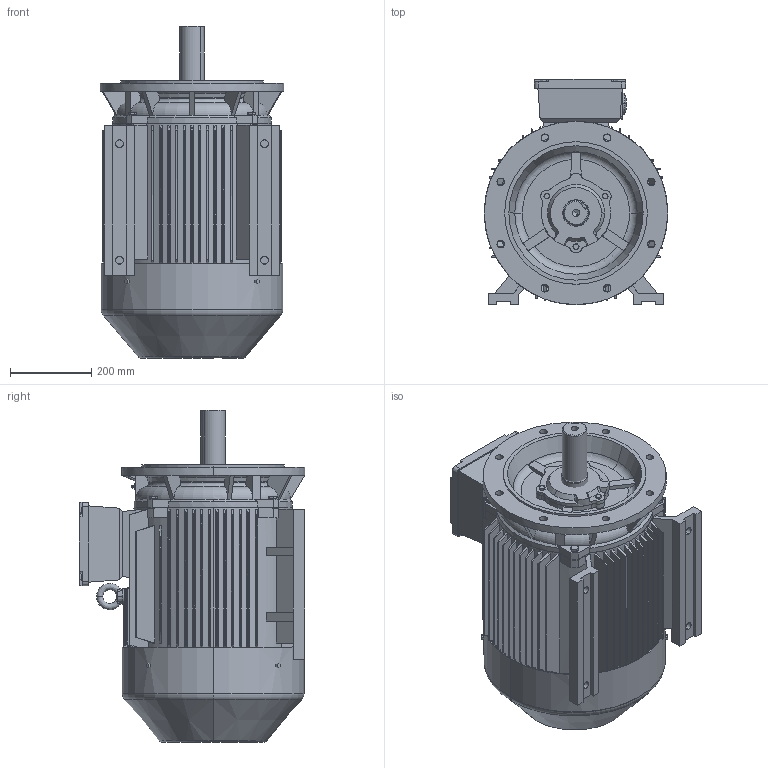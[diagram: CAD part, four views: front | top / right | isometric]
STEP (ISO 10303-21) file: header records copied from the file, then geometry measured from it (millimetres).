
FILE_DESCRIPTION (( 'STEP AP203' ), '1' );
FILE_NAME ('TE3-225S-4,8 B35上.STEP', '2019-12-23T02:03:41', ( '微软用户' ), ( '微软中国' ), 'SwSTEP 2.0', 'SolidWorks 2012', '' );
FILE_SCHEMA (( 'CONFIG_CONTROL_DESIGN' ));
Length unit declared in the file: millimetre
Products named in the file (14): TE3-225S-4,8 B35奻; 蚐戚; Y2-200~225 P24諉盄碟; hexagon head bolts-full thread gb_GB_FASTENER_BOLT_STBAB A M8X16-N; 8EJ.353.10054GX200~225P24諉盄碟裔; 8EJ.354.594Y2-200~225P24諉盄碟釱; eyebolts gb_GB_FASTENER_SCREWS_FRS M16-N; YX3-225 瑞欶; YE3-225-4,6,8（轴伸）; hex head bolts-full thread grade c gb_GB_FASTENER_BOLT_HHBFTC M12X25-N; hex head bolts-full thread grade c gb_GB_FASTENER_BOLT_HHBFTC M8X25-N; Y2-225-4,6,8轴承外盖（轴伸端）; Y2-225-4,6,8芧埽傷裔017.00082; Y2-225S儂釱8LY2.225.034.001
Assembly tree (21 placements, depth 3):
  TE3-225S-4,8 B35奻
    Y2-225S儂釱8LY2.225.034.001
    Y2-225-4,6,8芧埽傷裔017.00082
    Y2-225-4,6,8轴承外盖（轴伸端）
    hex head bolts-full thread grade c gb_GB_FASTENER_BOLT_HHBFTC M8X25-N  x3
    hex head bolts-full thread grade c gb_GB_FASTENER_BOLT_HHBFTC M12X25-N  x4
    YE3-225-4,6,8（轴伸）
    YX3-225 瑞欶
    eyebolts gb_GB_FASTENER_SCREWS_FRS M16-N
    Y2-200~225 P24諉盄碟
      8EJ.354.594Y2-200~225P24諉盄碟釱
      8EJ.353.10054GX200~225P24諉盄碟裔
      hexagon head bolts-full thread gb_GB_FASTENER_BOLT_STBAB A M8X16-N  x4
    蚐戚
Bounding box: 450 x 554 x 815 mm (x, y, z)
Volume: 59953969.5 mm3; surface area: 3760395.4 mm2
Topology: 21 solids, 21 shells, 2829 faces, 6971 edges, 4571 vertices
Faces by surface type: plane 2074, cylinder 325, cone 219, bspline 124, torus 81, sphere 6
Entity records: 92252 total; most frequent: CARTESIAN_POINT 28781, ORIENTED_EDGE 13068, DIRECTION 11618, EDGE_CURVE 6534, VECTOR 4942, LINE 4942, VERTEX_POINT 4308, AXIS2_PLACEMENT_3D 3338
